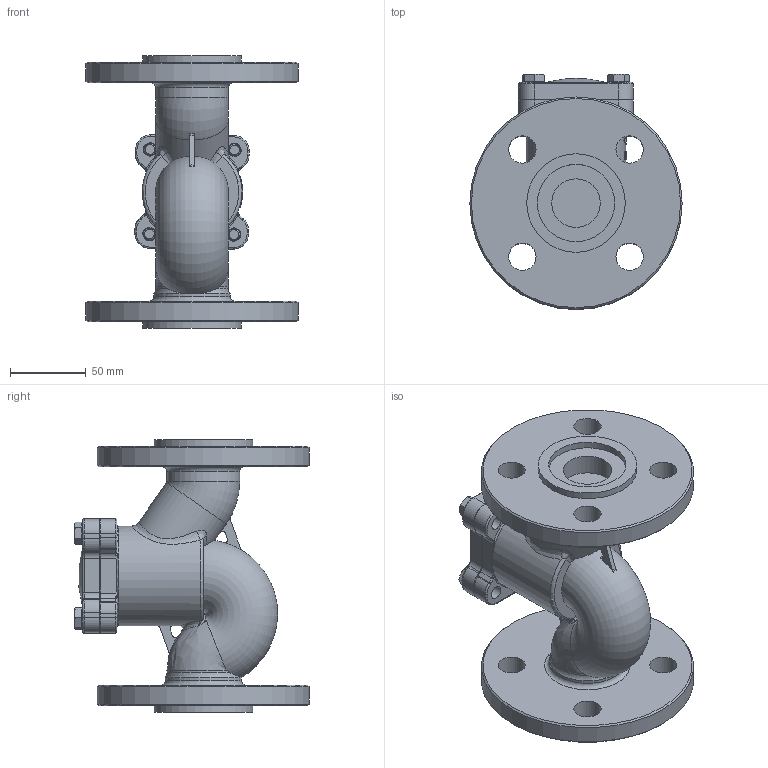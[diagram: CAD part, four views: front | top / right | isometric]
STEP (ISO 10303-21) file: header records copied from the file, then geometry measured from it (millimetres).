
FILE_DESCRIPTION(('STEP AP214'), '1');
FILE_NAME('VCR3434-F 孰囡囗 钺疣蝽 DN.ru 捏32 畜40', '', ('UNSPECIFIED'), ('UNSPECIFIED'), 'C3D Converter', 'C3D Toolkit', '');
FILE_SCHEMA(('AUTOMOTIVE_DESIGN { 1 0 10303 214 3 1 1}'));
Length unit declared in the file: millimetre
Products named in the file (1): VCR3434-F
Bounding box: 140 x 155 x 180 mm (x, y, z)
Volume: 846126 mm3; surface area: 152527.3 mm2
Topology: 1 solids, 3 shells, 381 faces, 933 edges, 579 vertices
Faces by surface type: plane 154, cylinder 101, bspline 48, torus 45, cone 32, sphere 1
Full cylindrical faces by diameter (mm): 8 x4, 8.751 x8, 13 x4, 15 x1, 18 x8, 32 x5, 48 x2, 50.269 x1, 51 x2, 65 x2, 65.723 x1, 140 x2
Entity records: 21322 total; most frequent: CARTESIAN_POINT 10658, ORIENTED_EDGE 1736, DIRECTION 1689, EDGE_CURVE 868, AXIS2_PLACEMENT_3D 696, VERTEX_POINT 575, EDGE_LOOP 493, FACE_BOUND 418
